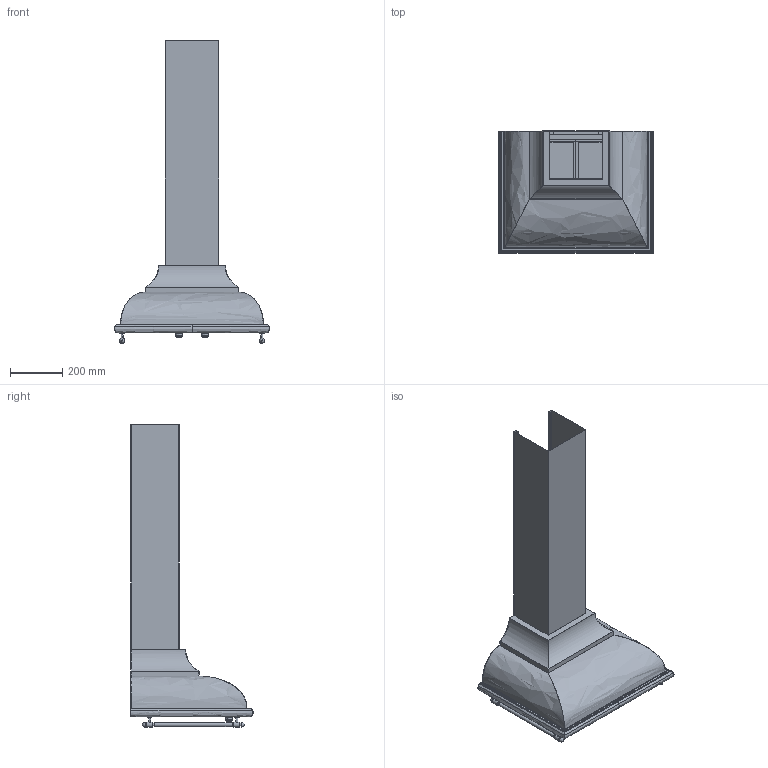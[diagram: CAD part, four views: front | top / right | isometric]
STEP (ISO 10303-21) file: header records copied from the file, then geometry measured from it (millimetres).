
FILE_DESCRIPTION(('CATIA V5 STEP Exchange'),'2;1');
FILE_NAME('C:\Users\TITAN\Desktop\apell\KC16AOE_PROVA_bim.stp','2018-02-02T12:48:48+00:00',('none'),('none'),'CATIA Version 5 Release 21 GA (IN-10)','CATIA V5 STEP AP203','none');
FILE_SCHEMA(('CONFIG_CONTROL_DESIGN'));
Length unit declared in the file: millimetre
Products named in the file (1): KC16AOE
Bounding box: 594.98 x 469.5 x 1162.28 mm (x, y, z)
Volume: 1992804 mm3; surface area: 2819243.4 mm2
Topology: 11 solids, 11 shells, 407 faces, 1184 edges, 815 vertices
Faces by surface type: plane 254, cylinder 92, extrusion 29, revolution 12, bspline 8, torus 8, cone 4
Entity records: 14414 total; most frequent: CARTESIAN_POINT 4336, ORIENTED_EDGE 2368, DIRECTION 1538, EDGE_CURVE 1184, VERTEX_POINT 815, VECTOR 780, LINE 751, AXIS2_PLACEMENT_3D 492
